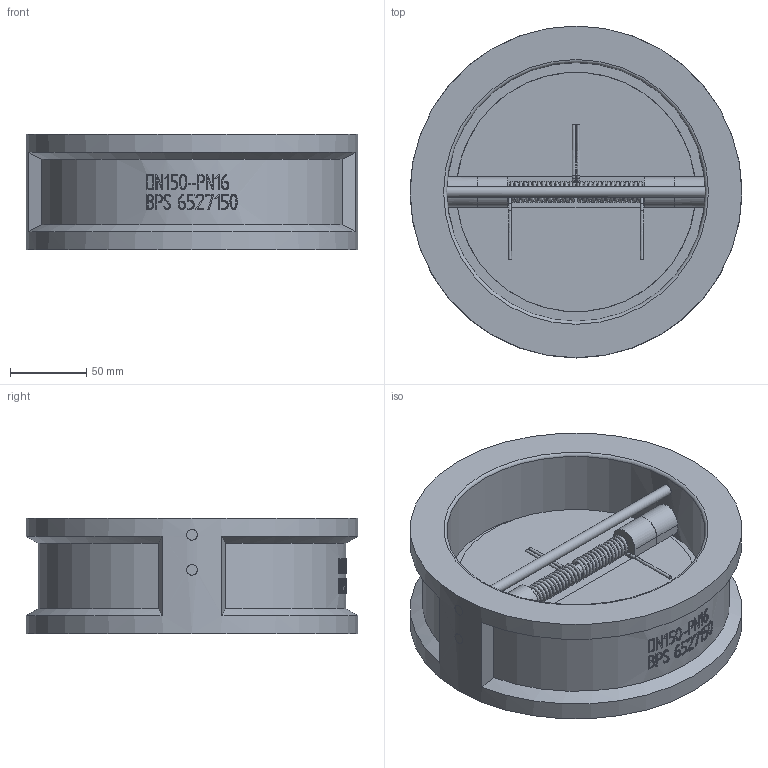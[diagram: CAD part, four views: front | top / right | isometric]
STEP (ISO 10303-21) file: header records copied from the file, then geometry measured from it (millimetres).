
FILE_DESCRIPTION( ( 'Unknown' ), '1' );
FILE_NAME( 'C:/Documents and Settings/Klaus/My Documents/Rootsi BPS 3D, Klaus/BPS 6527 double-door swing check valve/STEP/BPS6527150 double door swing check valve DN150.stp', 'Unknown', ( 'Unknown' ), ( 'Unknown' ), 'PSStep 10.1', 'Unknown', ' ' );
FILE_SCHEMA( ( 'AUTOMOTIVE_DESIGN { 1 0 10303 214 1 1 1 1 }' ) );
Length unit declared in the file: millimetre
Products named in the file (3): 1; 2; 3
Bounding box: 218 x 218 x 76 mm (x, y, z)
Volume: 1414740.4 mm3; surface area: 185315.5 mm2
Topology: 3 solids, 3 shells, 279 faces, 670 edges, 432 vertices
Faces by surface type: plane 121, bspline 97, cylinder 52, cone 6, torus 3
Full cylindrical faces by diameter (mm): 7 x4, 157.2 x1, 170 x1, 218 x1
Entity records: 25229 total; most frequent: CARTESIAN_POINT 17836, ORIENTED_EDGE 1256, EDGE_CURVE 628, DIRECTION 594, B_SPLINE_CURVE_WITH_KNOTS 474, VERTEX_POINT 422, EDGE_LOOP 358, FACE_OUTER_BOUND 309
